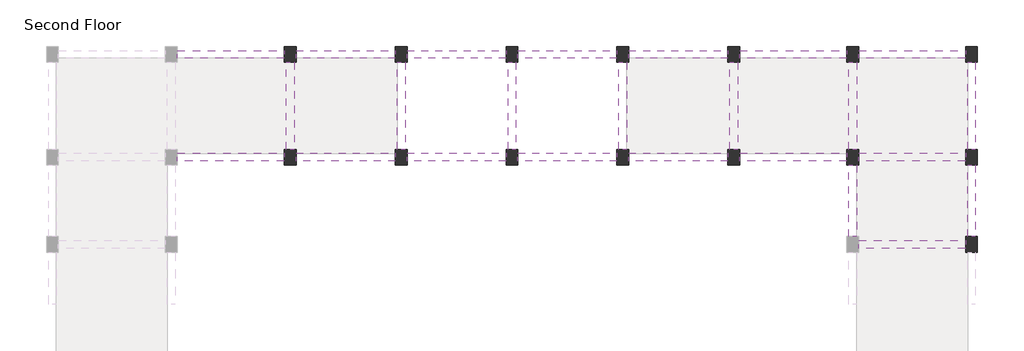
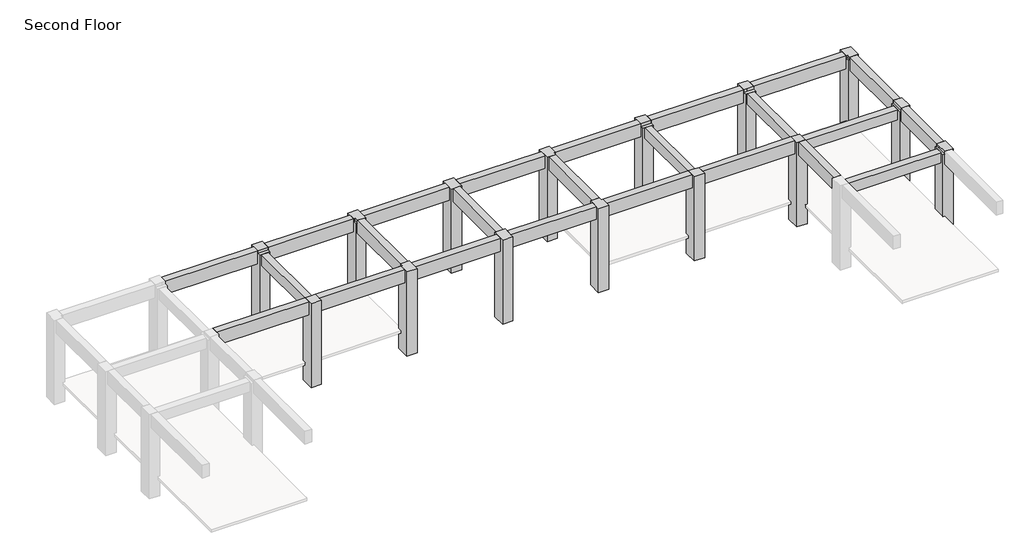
# One storey, part 2 of 2: 24 beams, 15 columns.
"""IFC4 building model written with IfcOpenShell, lengths in millimetres."""

from ifc_helpers import new_model, si_unit, frame, origin, place, context, project, spatial, polyline, outline, extrude, faceted_brep, element, save

model = new_model("IFC4")

# Units and contexts
model_context = context("Model", 3, world=origin())
ifc_project = project(units=[si_unit("LENGTHUNIT", "METRE", prefix="MILLI")], contexts=[model_context])

# Site, building, storey
site = spatial("IfcSite", under=ifc_project)
building = spatial("IfcBuilding", under=site)
storey = spatial("IfcBuildingStorey", under=building, Name="Second Floor", Elevation=4267.2)

# Beams
placement = place(None, origin())
element("IfcBeam", 1, ObjectType="Concrete-Rectangular Beam : 12 x 24", at=placement, inside=storey, context=model_context, shape_type="SweptSolid", body=[
    extrude(outline(polyline([(-11678.9781752, 17712.9470864), (-11983.7781752, 17712.9470864), (-11983.7781752, 21065.7470864), (-11678.9781752, 21065.7470864), (-11678.9781752, 17712.9470864)])), frame((0.0, 0.0, 6705.6), z_axis=(0.0, 0.0, 1.0), x_axis=(1.0, 0.0, 0.0)), (0.0, 0.0, 1.0), 482.6),
])
element("IfcBeam", 2, ObjectType="Concrete-Rectangular Beam : 12 x 24", at=placement, inside=storey, context=model_context, shape_type="SweptSolid", body=[
    extrude(outline(polyline([(-7411.7781752, 21065.7470864), (-7106.9781752, 21065.7470864), (-7106.9781752, 17712.9470864), (-7411.7781752, 17712.9470864), (-7411.7781752, 21065.7470864)])), frame((0.0, 0.0, 6705.6), z_axis=(0.0, 0.0, 1.0), x_axis=(1.0, 0.0, 0.0)), (0.0, 0.0, 1.0), 482.6),
])
element("IfcBeam", 3, ObjectType="Concrete-Rectangular Beam : 12 x 24", at=placement, inside=storey, context=model_context, shape_type="SweptSolid", body=[
    extrude(outline(polyline([(-7030.7781752, 17255.7470864), (-7030.7781752, 17560.5470864), (-2915.9781752, 17560.5470864), (-2915.9781752, 17255.7470864), (-7030.7781752, 17255.7470864)])), frame((0.0, 0.0, 6705.6), z_axis=(0.0, 0.0, 1.0), x_axis=(1.0, 0.0, 0.0)), (0.0, 0.0, 1.0), 482.6),
])
element("IfcBeam", 4, ObjectType="Concrete-Rectangular Beam : 12 x 24", at=placement, inside=storey, context=model_context, shape_type="SweptSolid", body=[
    extrude(outline(polyline([(-7030.7781752, 13902.9470864), (-7030.7781752, 14207.7470864), (-2915.9781752, 14207.7470864), (-2915.9781752, 13902.9470864), (-7030.7781752, 13902.9470864)])), frame((0.0, 0.0, 6705.6), z_axis=(0.0, 0.0, 1.0), x_axis=(1.0, 0.0, 0.0)), (0.0, 0.0, 1.0), 482.6),
])
element("IfcBeam", 5, ObjectType="Concrete-Rectangular Beam : 12 x 24", at=placement, inside=storey, context=model_context, shape_type="SweptSolid", body=[
    extrude(outline(polyline([(-20518.1781752, 21065.7470864), (-20213.3781752, 21065.7470864), (-20213.3781752, 17712.9470864), (-20518.1781752, 17712.9470864), (-20518.1781752, 21065.7470864)])), frame((0.0, 0.0, 6705.6), z_axis=(0.0, 0.0, 1.0), x_axis=(1.0, 0.0, 0.0)), (0.0, 0.0, 1.0), 609.6),
])
element("IfcBeam", 6, ObjectType="Concrete-Rectangular Beam : 12 x 24", at=placement, inside=storey, context=model_context, shape_type="SweptSolid", body=[
    extrude(outline(polyline([(-20137.1781752, 21218.1470864), (-20137.1781752, 21522.9470864), (-16327.1781752, 21522.9470864), (-16327.1781752, 21218.1470864), (-20137.1781752, 21218.1470864)])), frame((0.0, 0.0, 6705.6), z_axis=(0.0, 0.0, 1.0), x_axis=(1.0, 0.0, 0.0)), (0.0, 0.0, 1.0), 609.6),
])
element("IfcBeam", 7, ObjectType="Concrete-Rectangular Beam : 12 x 24", at=placement, inside=storey, context=model_context, shape_type="SweptSolid", body=[
    extrude(outline(polyline([(-15869.9781752, 21218.1470864), (-15869.9781752, 21522.9470864), (-12059.9781752, 21522.9470864), (-12059.9781752, 21218.1470864), (-15869.9781752, 21218.1470864)])), frame((0.0, 0.0, 6705.6), z_axis=(0.0, 0.0, 1.0), x_axis=(1.0, 0.0, 0.0)), (0.0, 0.0, 1.0), 609.6),
])
element("IfcBeam", 8, ObjectType="Concrete-Rectangular Beam : 12 x 24", at=placement, inside=storey, context=model_context, shape_type="SweptSolid", body=[
    extrude(outline(polyline([(-11602.7781752, 21218.1470864), (-11602.7781752, 21522.9470864), (-7487.9781752, 21522.9470864), (-7487.9781752, 21218.1470864), (-11602.7781752, 21218.1470864)])), frame((0.0, 0.0, 6705.6), z_axis=(0.0, 0.0, 1.0), x_axis=(1.0, 0.0, 0.0)), (0.0, 0.0, 1.0), 609.6),
])
element("IfcBeam", 9, ObjectType="Concrete-Rectangular Beam : 12 x 24", at=placement, inside=storey, context=model_context, shape_type="SweptSolid", body=[
    extrude(outline(polyline([(-7030.7781752, 21218.1470864), (-7030.7781752, 21522.9470864), (-2915.9781752, 21522.9470864), (-2915.9781752, 21218.1470864), (-7030.7781752, 21218.1470864)])), frame((0.0, 0.0, 6705.6), z_axis=(0.0, 0.0, 1.0), x_axis=(1.0, 0.0, 0.0)), (0.0, 0.0, 1.0), 609.6),
])
element("IfcBeam", 10, ObjectType="Concrete-Rectangular Beam : 12 x 24", at=placement, inside=storey, context=model_context, shape_type="SweptSolid", body=[
    extrude(outline(polyline([(-16250.9781752, 21065.7470864), (-15946.1781752, 21065.7470864), (-15946.1781752, 17712.9470864), (-16250.9781752, 17712.9470864), (-16250.9781752, 21065.7470864)])), frame((0.0, 0.0, 6705.6), z_axis=(0.0, 0.0, 1.0), x_axis=(1.0, 0.0, 0.0)), (0.0, 0.0, 1.0), 609.6),
])
element("IfcBeam", 11, ObjectType="Concrete-Rectangular Beam : 12 x 24", at=placement, inside=storey, context=model_context, shape_type="SweptSolid", body=[
    extrude(outline(polyline([(-2839.7781752, 21065.7470864), (-2534.9781752, 21065.7470864), (-2534.9781752, 17712.9470864), (-2839.7781752, 17712.9470864), (-2839.7781752, 21065.7470864)])), frame((0.0, 0.0, 6705.6), z_axis=(0.0, 0.0, 1.0), x_axis=(1.0, 0.0, 0.0)), (0.0, 0.0, 1.0), 609.6),
])
element("IfcBeam", 12, ObjectType="Concrete-Rectangular Beam : 12 x 24", at=placement, inside=storey, context=model_context, shape_type="SweptSolid", body=[
    extrude(outline(polyline([(-2839.7781752, 17103.3470864), (-2534.9781752, 17103.3470864), (-2534.9781752, 14360.1470864), (-2839.7781752, 14360.1470864), (-2839.7781752, 17103.3470864)])), frame((0.0, 0.0, 6705.6), z_axis=(0.0, 0.0, 1.0), x_axis=(1.0, 0.0, 0.0)), (0.0, 0.0, 1.0), 609.6),
])
element("IfcBeam", 13, ObjectType="Concrete-Rectangular Beam : 12 x 24", at=placement, inside=storey, context=model_context, shape_type="Brep", body=[
    faceted_brep([(-7106.9781752, 17103.3470864, 7315.2), (-7411.7781752, 17103.3470864, 7315.2), (-7411.7781752, 14360.1470864, 7315.2), (-7106.9781752, 14360.1470864, 7315.2), (-7411.7781752, 17103.3470864, 6705.6), (-7411.7781752, 14360.1470864, 6705.6), (-7106.9781752, 17103.3470864, 6705.6), (-7106.9781752, 14360.1470864, 6705.6), (-7106.9781752, 14360.1470864, 7188.2), (-7106.9781752, 17103.3470864, 7188.2)], [[[0, 1, 2, 3]], [[1, 4, 5, 2]], [[4, 6, 7, 5]], [[0, 3, 8, 7, 6, 9]], [[1, 0, 9, 6, 4]], [[3, 2, 5, 7, 8]]]),
])
element("IfcBeam", 14, ObjectType="Concrete-Rectangular Beam : 12 x 24", at=placement, inside=storey, context=model_context, shape_type="Brep", body=[
    faceted_brep([(-11602.7781752, 17560.5470864, 7315.2), (-11602.7781752, 17255.7470864, 7315.2), (-7487.9781752, 17255.7470864, 7315.2), (-7487.9781752, 17560.5470864, 7315.2), (-11602.7781752, 17255.7470864, 6705.6), (-7487.9781752, 17255.7470864, 6705.6), (-11602.7781752, 17560.5470864, 6705.6), (-7487.9781752, 17560.5470864, 6705.6), (-7487.9781752, 17560.5470864, 7188.2), (-11602.7781752, 17560.5470864, 7188.2)], [[[0, 1, 2, 3]], [[1, 4, 5, 2]], [[4, 6, 7, 5]], [[0, 3, 8, 7, 6, 9]], [[1, 0, 9, 6, 4]], [[3, 2, 5, 7, 8]]]),
])
element("IfcBeam", 15, ObjectType="Concrete-Rectangular Beam : 12 x 24", at=placement, inside=storey, context=model_context, shape_type="SweptSolid", body=[
    extrude(outline(polyline([(-20137.1781752, 17255.7470864), (-20137.1781752, 17560.5470864), (-16327.1781752, 17560.5470864), (-16327.1781752, 17255.7470864), (-20137.1781752, 17255.7470864)])), frame((0.0, 0.0, 6705.6), z_axis=(0.0, 0.0, 1.0), x_axis=(1.0, 0.0, 0.0)), (0.0, 0.0, 1.0), 609.6),
])
element("IfcBeam", 16, ObjectType="Concrete-Rectangular Beam : 12 x 24", at=placement, inside=storey, context=model_context, shape_type="Brep", body=[
    faceted_brep([(-12059.9781752, 17560.5470864, 7315.2), (-15869.9781752, 17560.5470864, 7315.2), (-15869.9781752, 17255.7470864, 7315.2), (-12059.9781752, 17255.7470864, 7315.2), (-15869.9781752, 17255.7470864, 6705.6), (-12059.9781752, 17255.7470864, 6705.6), (-15869.9781752, 17560.5470864, 6705.6), (-12059.9781752, 17560.5470864, 6705.6), (-12059.9781752, 17560.5470864, 7188.2), (-15869.9781752, 17560.5470864, 7188.2)], [[[0, 1, 2, 3]], [[3, 2, 4, 5]], [[5, 4, 6, 7]], [[1, 0, 8, 7, 6, 9]], [[2, 1, 9, 6, 4]], [[0, 3, 5, 7, 8]]]),
])
element("IfcBeam", 17, ObjectType="Concrete-Rectangular Beam : 12 x 24", at=placement, inside=storey, context=model_context, shape_type="SweptSolid", body=[
    extrude(outline(polyline([(-28747.7781752, 17712.9470864), (-29052.5781752, 17712.9470864), (-29052.5781752, 21065.7470864), (-28747.7781752, 21065.7470864), (-28747.7781752, 17712.9470864)])), frame((0.0, 0.0, 6705.6), z_axis=(0.0, 0.0, 1.0), x_axis=(1.0, 0.0, 0.0)), (0.0, 0.0, 1.0), 482.6),
])
element("IfcBeam", 18, ObjectType="Concrete-Rectangular Beam : 12 x 24", at=placement, inside=storey, context=model_context, shape_type="SweptSolid", body=[
    extrude(outline(polyline([(-24404.3781752, 21218.1470864), (-24404.3781752, 21522.9470864), (-20594.3781752, 21522.9470864), (-20594.3781752, 21218.1470864), (-24404.3781752, 21218.1470864)])), frame((0.0, 0.0, 6705.6), z_axis=(0.0, 0.0, 1.0), x_axis=(1.0, 0.0, 0.0)), (0.0, 0.0, 1.0), 609.6),
])
element("IfcBeam", 19, ObjectType="Concrete-Rectangular Beam : 12 x 24", at=placement, inside=storey, context=model_context, shape_type="SweptSolid", body=[
    extrude(outline(polyline([(-24861.5781752, 21522.9470864), (-24861.5781752, 21218.1470864), (-28671.5781752, 21218.1470864), (-28671.5781752, 21522.9470864), (-24861.5781752, 21522.9470864)])), frame((0.0, 0.0, 6705.6), z_axis=(0.0, 0.0, 1.0), x_axis=(1.0, 0.0, 0.0)), (0.0, 0.0, 1.0), 609.6),
])
element("IfcBeam", 20, ObjectType="Concrete-Rectangular Beam : 12 x 24", at=placement, inside=storey, context=model_context, shape_type="SweptSolid", body=[
    extrude(outline(polyline([(-29128.7781752, 21522.9470864), (-29128.7781752, 21218.1470864), (-33243.5781752, 21218.1470864), (-33243.5781752, 21522.9470864), (-29128.7781752, 21522.9470864)])), frame((0.0, 0.0, 6705.6), z_axis=(0.0, 0.0, 1.0), x_axis=(1.0, 0.0, 0.0)), (0.0, 0.0, 1.0), 609.6),
])
element("IfcBeam", 21, ObjectType="Concrete-Rectangular Beam : 12 x 24", at=placement, inside=storey, context=model_context, shape_type="SweptSolid", body=[
    extrude(outline(polyline([(-24785.3781752, 21065.7470864), (-24480.5781752, 21065.7470864), (-24480.5781752, 17712.9470864), (-24785.3781752, 17712.9470864), (-24785.3781752, 21065.7470864)])), frame((0.0, 0.0, 6705.6), z_axis=(0.0, 0.0, 1.0), x_axis=(1.0, 0.0, 0.0)), (0.0, 0.0, 1.0), 609.6),
])
element("IfcBeam", 22, ObjectType="Concrete-Rectangular Beam : 12 x 24", at=placement, inside=storey, context=model_context, shape_type="Brep", body=[
    faceted_brep([(-29128.7781752, 17255.7470864, 7315.2), (-29128.7781752, 17560.5470864, 7315.2), (-33243.5781752, 17560.5470864, 7315.2), (-33243.5781752, 17255.7470864, 7315.2), (-29128.7781752, 17255.7470864, 6705.6), (-33243.5781752, 17255.7470864, 6705.6), (-29128.7781752, 17560.5470864, 6705.6), (-33243.5781752, 17560.5470864, 6705.6), (-29128.7781752, 17560.5470864, 7188.2), (-33243.5781752, 17560.5470864, 7188.2)], [[[0, 1, 2, 3]], [[4, 0, 3, 5]], [[6, 4, 5, 7]], [[2, 1, 8, 6, 7, 9]], [[1, 0, 4, 6, 8]], [[3, 2, 9, 7, 5]]]),
])
element("IfcBeam", 23, ObjectType="Concrete-Rectangular Beam : 12 x 24", at=placement, inside=storey, context=model_context, shape_type="Brep", body=[
    faceted_brep([(-24861.5781752, 17255.7470864, 7315.2), (-24861.5781752, 17560.5470864, 7315.2), (-28671.5781752, 17560.5470864, 7315.2), (-28671.5781752, 17255.7470864, 7315.2), (-24861.5781752, 17255.7470864, 6705.6), (-28671.5781752, 17255.7470864, 6705.6), (-24861.5781752, 17560.5470864, 6705.6), (-28671.5781752, 17560.5470864, 6705.6), (-24861.5781752, 17560.5470864, 7188.2), (-28671.5781752, 17560.5470864, 7188.2)], [[[0, 1, 2, 3]], [[4, 0, 3, 5]], [[6, 4, 5, 7]], [[2, 1, 8, 6, 7, 9]], [[1, 0, 4, 6, 8]], [[3, 2, 9, 7, 5]]]),
])
element("IfcBeam", 24, ObjectType="Concrete-Rectangular Beam : 12 x 24", at=placement, inside=storey, context=model_context, shape_type="SweptSolid", body=[
    extrude(outline(polyline([(-20594.3781752, 17560.5470864), (-20594.3781752, 17255.7470864), (-24404.3781752, 17255.7470864), (-24404.3781752, 17560.5470864), (-20594.3781752, 17560.5470864)])), frame((0.0, 0.0, 6705.6), z_axis=(0.0, 0.0, 1.0), x_axis=(1.0, 0.0, 0.0)), (0.0, 0.0, 1.0), 609.6),
])

# Columns
element("IfcColumn", 25, ObjectType="Concrete-Rectangular-Column : 18 x 24", at=placement, inside=storey, context=model_context, shape_type="SweptSolid", body=[
    extrude(outline(polyline([(-20137.1781752, 21675.3470864), (-20137.1781752, 21065.7470864), (-20594.3781752, 21065.7470864), (-20594.3781752, 21675.3470864), (-20137.1781752, 21675.3470864)])), frame((0.0, 0.0, 3352.8), z_axis=(0.0, 0.0, 1.0), x_axis=(1.0, 0.0, 0.0)), (0.0, 0.0, 1.0), 3962.4),
])
element("IfcColumn", 26, ObjectType="Concrete-Rectangular-Column : 18 x 24", at=placement, inside=storey, context=model_context, shape_type="Brep", body=[
    faceted_brep([(-15869.9781752, 21675.3470864, 3352.8), (-15869.9781752, 21065.7470864, 3352.8), (-16327.1781752, 21065.7470864, 3352.8), (-16327.1781752, 21675.3470864, 3352.8), (-15869.9781752, 21675.3470864, 7315.2), (-15869.9781752, 21218.1470864, 7315.2), (-15869.9781752, 21218.1470864, 7188.2), (-15869.9781752, 21065.7470864, 7188.2), (-15869.9781752, 21065.7470864, 4267.2), (-15869.9781752, 21218.1470864, 4267.2), (-15869.9781752, 21218.1470864, 4140.2), (-15869.9781752, 21065.7470864, 4140.2), (-15946.1781752, 21065.7470864, 4140.2), (-15946.1781752, 21065.7470864, 4267.2), (-15946.1781752, 21065.7470864, 7188.2), (-15946.1781752, 21065.7470864, 7315.2), (-16327.1781752, 21065.7470864, 7315.2), (-16327.1781752, 21675.3470864, 7315.2), (-15946.1781752, 21218.1470864, 7315.2), (-15946.1781752, 21218.1470864, 7188.2), (-15946.1781752, 21218.1470864, 4140.2), (-15946.1781752, 21218.1470864, 4267.2)], [[[0, 1, 2, 3]], [[1, 0, 4, 5, 6, 7, 8, 9, 10, 11]], [[2, 1, 11, 12, 13, 8, 7, 14, 15, 16]], [[3, 2, 16, 17]], [[0, 3, 17, 4]], [[17, 16, 15, 18, 5, 4]], [[6, 19, 14, 7]], [[19, 18, 15, 14]], [[18, 19, 6, 5]], [[10, 20, 12, 11]], [[13, 21, 9, 8]], [[20, 21, 13, 12]], [[21, 20, 10, 9]]]),
])
element("IfcColumn", 27, ObjectType="Concrete-Rectangular-Column : 18 x 24", at=placement, inside=storey, context=model_context, shape_type="Brep", body=[
    faceted_brep([(-11602.7781752, 21675.3470864, 3352.8), (-11602.7781752, 21065.7470864, 3352.8), (-12059.9781752, 21065.7470864, 3352.8), (-12059.9781752, 21675.3470864, 3352.8), (-11602.7781752, 21675.3470864, 7315.2), (-11602.7781752, 21218.1470864, 7315.2), (-11602.7781752, 21218.1470864, 7188.2), (-11602.7781752, 21065.7470864, 7188.2), (-11602.7781752, 21065.7470864, 4267.2), (-11602.7781752, 21218.1470864, 4267.2), (-11602.7781752, 21218.1470864, 4140.2), (-11602.7781752, 21065.7470864, 4140.2), (-12059.9781752, 21065.7470864, 7188.2), (-12059.9781752, 21065.7470864, 4267.2), (-12059.9781752, 21065.7470864, 4140.2), (-12059.9781752, 21218.1470864, 4140.2), (-12059.9781752, 21218.1470864, 4267.2), (-12059.9781752, 21218.1470864, 7188.2), (-12059.9781752, 21218.1470864, 7315.2), (-12059.9781752, 21675.3470864, 7315.2), (-11983.7781752, 21065.7470864, 4140.2), (-11678.9781752, 21065.7470864, 4140.2)], [[[0, 1, 2, 3]], [[1, 0, 4, 5, 6, 7, 8, 9, 10, 11]], [[7, 12, 13, 8]], [[3, 2, 14, 15, 16, 13, 12, 17, 18, 19]], [[0, 3, 19, 4]], [[4, 19, 18, 5]], [[6, 17, 12, 7]], [[17, 6, 5, 18]], [[10, 15, 14, 20, 21, 11]], [[16, 9, 8, 13]], [[15, 10, 9, 16]], [[2, 1, 11, 21, 20, 14]]]),
])
element("IfcColumn", 28, ObjectType="Concrete-Rectangular-Column : 18 x 24", at=placement, inside=storey, context=model_context, shape_type="Brep", body=[
    faceted_brep([(-7030.7781752, 21675.3470864, 3352.8), (-7030.7781752, 21065.7470864, 3352.8), (-7487.9781752, 21065.7470864, 3352.8), (-7487.9781752, 21675.3470864, 3352.8), (-7030.7781752, 21675.3470864, 7315.2), (-7030.7781752, 21218.1470864, 7315.2), (-7030.7781752, 21218.1470864, 7188.2), (-7030.7781752, 21065.7470864, 7188.2), (-7030.7781752, 21065.7470864, 4267.2), (-7030.7781752, 21218.1470864, 4267.2), (-7030.7781752, 21218.1470864, 4140.2), (-7030.7781752, 21065.7470864, 4140.2), (-7487.9781752, 21065.7470864, 7188.2), (-7487.9781752, 21065.7470864, 4267.2), (-7487.9781752, 21065.7470864, 4140.2), (-7487.9781752, 21218.1470864, 4140.2), (-7487.9781752, 21218.1470864, 4267.2), (-7487.9781752, 21218.1470864, 7188.2), (-7487.9781752, 21218.1470864, 7315.2), (-7487.9781752, 21675.3470864, 7315.2), (-7337.9512179, 21218.1470864, 7315.2), (-7337.9512179, 21218.1470864, 7188.2), (-7337.9512179, 21218.1470864, 4140.2), (-7411.7781752, 21065.7470864, 4140.2), (-7106.9781752, 21065.7470864, 4140.2), (-7337.9512179, 21218.1470864, 4267.2)], [[[0, 1, 2, 3]], [[1, 0, 4, 5, 6, 7, 8, 9, 10, 11]], [[7, 12, 13, 8]], [[3, 2, 14, 15, 16, 13, 12, 17, 18, 19]], [[0, 3, 19, 4]], [[4, 19, 18, 20, 5]], [[6, 21, 17, 12, 7]], [[21, 20, 18, 17]], [[20, 21, 6, 5]], [[10, 22, 15, 14, 23, 24, 11]], [[16, 25, 9, 8, 13]], [[22, 25, 16, 15]], [[25, 22, 10, 9]], [[2, 1, 11, 24, 23, 14]]]),
])
element("IfcColumn", 29, ObjectType="Concrete-Rectangular-Column : 18 x 24", at=placement, inside=storey, context=model_context, shape_type="Brep", body=[
    faceted_brep([(-2458.7781752, 21675.3470864, 3352.8), (-2458.7781752, 21065.7470864, 3352.8), (-2915.9781752, 21065.7470864, 3352.8), (-2915.9781752, 21218.1470864, 3352.8), (-2611.1781752, 21218.1470864, 3352.8), (-2611.1781752, 21522.9470864, 3352.8), (-2915.9781752, 21522.9470864, 3352.8), (-2915.9781752, 21675.3470864, 3352.8), (-2458.7781752, 21675.3470864, 7315.2), (-2458.7781752, 21065.7470864, 7315.2), (-2839.7781752, 21065.7470864, 7315.2), (-2839.7781752, 21065.7470864, 7188.2), (-2915.9781752, 21065.7470864, 7188.2), (-2915.9781752, 21065.7470864, 4267.2), (-2839.7781752, 21065.7470864, 4267.2), (-2839.7781752, 21065.7470864, 4140.2), (-2915.9781752, 21065.7470864, 4140.2), (-2915.9781752, 21675.3470864, 7315.2), (-2915.9781752, 21522.9470864, 3657.6), (-2915.9781752, 21218.1470864, 3657.6), (-2915.9781752, 21218.1470864, 4140.2), (-2915.9781752, 21218.1470864, 4267.2), (-2915.9781752, 21218.1470864, 7188.2), (-2915.9781752, 21218.1470864, 7315.2), (-2839.7781752, 21218.1470864, 7315.2), (-2839.7781752, 21218.1470864, 7188.2), (-2839.7781752, 21218.1470864, 4140.2), (-2839.7781752, 21218.1470864, 4267.2), (-2611.1781752, 21218.1470864, 3657.6), (-2611.1781752, 21522.9470864, 3657.6)], [[[0, 1, 2, 3, 4, 5, 6, 7]], [[1, 0, 8, 9]], [[2, 1, 9, 10, 11, 12, 13, 14, 15, 16]], [[17, 7, 6, 18, 19, 3, 2, 16, 20, 21, 13, 12, 22, 23]], [[0, 7, 17, 8]], [[9, 8, 17, 23, 24, 10]], [[11, 25, 22, 12]], [[25, 24, 23, 22]], [[24, 25, 11, 10]], [[15, 26, 20, 16]], [[21, 27, 14, 13]], [[26, 27, 21, 20]], [[27, 26, 15, 14]], [[19, 28, 4, 3]], [[5, 29, 18, 6]], [[28, 29, 5, 4]], [[29, 28, 19, 18]]]),
])
element("IfcColumn", 30, ObjectType="Concrete-Rectangular-Column : 18 x 24", at=placement, inside=storey, context=model_context, shape_type="SweptSolid", body=[
    extrude(outline(polyline([(-20137.1781752, 17712.9470864), (-20137.1781752, 17103.3470864), (-20594.3781752, 17103.3470864), (-20594.3781752, 17712.9470864), (-20137.1781752, 17712.9470864)])), frame((0.0, 0.0, 3352.8), z_axis=(0.0, 0.0, 1.0), x_axis=(1.0, 0.0, 0.0)), (0.0, 0.0, 1.0), 3962.4),
])
element("IfcColumn", 31, ObjectType="Concrete-Rectangular-Column : 18 x 24", at=placement, inside=storey, context=model_context, shape_type="Brep", body=[
    faceted_brep([(-15869.9781752, 17712.9470864, 3352.8), (-15869.9781752, 17103.3470864, 3352.8), (-16327.1781752, 17103.3470864, 3352.8), (-16327.1781752, 17712.9470864, 3352.8), (-15869.9781752, 17712.9470864, 4140.2), (-15869.9781752, 17560.5470864, 4140.2), (-15869.9781752, 17560.5470864, 4267.2), (-15869.9781752, 17712.9470864, 4267.2), (-15869.9781752, 17712.9470864, 7188.2), (-15869.9781752, 17560.5470864, 7188.2), (-15869.9781752, 17560.5470864, 7315.2), (-15869.9781752, 17103.3470864, 7315.2), (-16327.1781752, 17103.3470864, 7315.2), (-16327.1781752, 17712.9470864, 7315.2), (-15946.1781752, 17712.9470864, 7315.2), (-15946.1781752, 17712.9470864, 7188.2), (-15946.1781752, 17712.9470864, 4267.2), (-15946.1781752, 17712.9470864, 4140.2), (-15946.1781752, 17560.5470864, 7315.2), (-15946.1781752, 17560.5470864, 7188.2), (-15946.1781752, 17560.5470864, 4140.2), (-15946.1781752, 17560.5470864, 4267.2)], [[[0, 1, 2, 3]], [[1, 0, 4, 5, 6, 7, 8, 9, 10, 11]], [[2, 1, 11, 12]], [[3, 2, 12, 13]], [[0, 3, 13, 14, 15, 8, 7, 16, 17, 4]], [[12, 11, 10, 18, 14, 13]], [[19, 9, 8, 15]], [[18, 19, 15, 14]], [[19, 18, 10, 9]], [[20, 5, 4, 17]], [[21, 16, 7, 6]], [[21, 20, 17, 16]], [[20, 21, 6, 5]]]),
])
element("IfcColumn", 32, ObjectType="Concrete-Rectangular-Column : 18 x 24", at=placement, inside=storey, context=model_context, shape_type="Brep", body=[
    faceted_brep([(-11602.7781752, 17712.9470864, 3352.8), (-11602.7781752, 17103.3470864, 3352.8), (-12059.9781752, 17103.3470864, 3352.8), (-12059.9781752, 17712.9470864, 3352.8), (-11602.7781752, 17712.9470864, 4140.2), (-11602.7781752, 17560.5470864, 4140.2), (-11602.7781752, 17560.5470864, 4267.2), (-11602.7781752, 17712.9470864, 4267.2), (-11602.7781752, 17712.9470864, 7188.2), (-11602.7781752, 17560.5470864, 7188.2), (-11602.7781752, 17560.5470864, 7315.2), (-11602.7781752, 17103.3470864, 7315.2), (-12059.9781752, 17103.3470864, 7315.2), (-12059.9781752, 17560.5470864, 7315.2), (-12059.9781752, 17560.5470864, 7188.2), (-12059.9781752, 17712.9470864, 7188.2), (-12059.9781752, 17712.9470864, 4267.2), (-12059.9781752, 17560.5470864, 4267.2), (-12059.9781752, 17560.5470864, 4140.2), (-12059.9781752, 17712.9470864, 4140.2), (-11869.525863, 17560.5470864, 7315.2), (-11869.525863, 17560.5470864, 7188.2), (-11869.525863, 17560.5470864, 4140.2), (-11678.9781752, 17712.9470864, 4140.2), (-11983.7781752, 17712.9470864, 4140.2), (-11869.525863, 17560.5470864, 4267.2)], [[[0, 1, 2, 3]], [[1, 0, 4, 5, 6, 7, 8, 9, 10, 11]], [[2, 1, 11, 12]], [[3, 2, 12, 13, 14, 15, 16, 17, 18, 19]], [[15, 8, 7, 16]], [[12, 11, 10, 20, 13]], [[14, 21, 9, 8, 15]], [[21, 20, 10, 9]], [[20, 21, 14, 13]], [[18, 22, 5, 4, 23, 24, 19]], [[6, 25, 17, 16, 7]], [[22, 25, 6, 5]], [[25, 22, 18, 17]], [[0, 3, 19, 24, 23, 4]]]),
])
element("IfcColumn", 33, ObjectType="Concrete-Rectangular-Column : 18 x 24", at=placement, inside=storey, context=model_context, shape_type="Brep", body=[
    faceted_brep([(-7030.7781752, 17712.9470864, 3352.8), (-7030.7781752, 17103.3470864, 3352.8), (-7487.9781752, 17103.3470864, 3352.8), (-7487.9781752, 17712.9470864, 3352.8), (-7030.7781752, 17712.9470864, 7188.2), (-7030.7781752, 17103.3470864, 7188.2), (-7030.7781752, 17103.3470864, 4267.2), (-7030.7781752, 17712.9470864, 4267.2), (-7030.7781752, 17103.3470864, 4140.2), (-7106.9781752, 17103.3470864, 4140.2), (-7106.9781752, 17103.3470864, 4267.2), (-7106.9781752, 17103.3470864, 7188.2), (-7106.9781752, 17103.3470864, 7315.2), (-7487.9781752, 17103.3470864, 7315.2), (-7487.9781752, 17560.5470864, 7315.2), (-7487.9781752, 17560.5470864, 7188.2), (-7487.9781752, 17712.9470864, 7188.2), (-7487.9781752, 17712.9470864, 4267.2), (-7487.9781752, 17560.5470864, 4267.2), (-7487.9781752, 17560.5470864, 4140.2), (-7487.9781752, 17712.9470864, 4140.2), (-7106.9781752, 17560.5470864, 7315.2), (-7106.9781752, 17560.5470864, 7188.2), (-7106.9781752, 17560.5470864, 4140.2), (-7030.7781752, 17255.7470864, 4140.2), (-7030.7781752, 17560.5470864, 4140.2), (-7030.7781752, 17712.9470864, 4140.2), (-7106.9781752, 17712.9470864, 4140.2), (-7411.7781752, 17712.9470864, 4140.2), (-7106.9781752, 17560.5470864, 4267.2)], [[[0, 1, 2, 3]], [[4, 5, 6, 7]], [[2, 1, 8, 9, 10, 6, 5, 11, 12, 13]], [[3, 2, 13, 14, 15, 16, 17, 18, 19, 20]], [[16, 4, 7, 17]], [[14, 13, 12, 21]], [[15, 22, 11, 5, 4, 16]], [[22, 21, 12, 11]], [[21, 22, 15, 14]], [[19, 23, 9, 8, 24, 25, 26, 27, 28, 20]], [[10, 29, 18, 17, 7, 6]], [[23, 29, 10, 9]], [[29, 23, 19, 18]], [[1, 0, 26, 25, 24, 8]], [[0, 3, 20, 28, 27, 26]]]),
])
element("IfcColumn", 34, ObjectType="Concrete-Rectangular-Column : 18 x 24", at=placement, inside=storey, context=model_context, shape_type="Brep", body=[
    faceted_brep([(-2458.7781752, 17712.9470864, 3352.8), (-2458.7781752, 17103.3470864, 3352.8), (-2915.9781752, 17103.3470864, 3352.8), (-2915.9781752, 17712.9470864, 3352.8), (-2839.7781752, 17712.9470864, 3352.8), (-2839.7781752, 17560.5470864, 3352.8), (-2534.9781752, 17560.5470864, 3352.8), (-2534.9781752, 17712.9470864, 3352.8), (-2458.7781752, 17712.9470864, 7315.2), (-2458.7781752, 17103.3470864, 7315.2), (-2839.7781752, 17103.3470864, 7315.2), (-2839.7781752, 17103.3470864, 7188.2), (-2915.9781752, 17103.3470864, 7188.2), (-2915.9781752, 17103.3470864, 4267.2), (-2839.7781752, 17103.3470864, 4267.2), (-2839.7781752, 17103.3470864, 4140.2), (-2915.9781752, 17103.3470864, 4140.2), (-2915.9781752, 17712.9470864, 7188.2), (-2915.9781752, 17712.9470864, 4267.2), (-2534.9781752, 17712.9470864, 3657.6), (-2839.7781752, 17712.9470864, 3657.6), (-2915.9781752, 17712.9470864, 4140.2), (-2839.7781752, 17712.9470864, 4140.2), (-2839.7781752, 17712.9470864, 4267.2), (-2839.7781752, 17712.9470864, 7188.2), (-2839.7781752, 17712.9470864, 7315.2), (-2839.7781752, 17107.3073578, 7315.2), (-2839.7781752, 17107.3073578, 7188.2), (-2839.7781752, 17107.3073578, 4140.2), (-2915.9781752, 17560.5470864, 4140.2), (-2915.9781752, 17255.7470864, 4140.2), (-2839.7781752, 17107.3073578, 4267.2), (-2534.9781752, 17560.5470864, 3657.6), (-2839.7781752, 17560.5470864, 3657.6)], [[[0, 1, 2, 3, 4, 5, 6, 7]], [[1, 0, 8, 9]], [[2, 1, 9, 10, 11, 12, 13, 14, 15, 16]], [[12, 17, 18, 13]], [[8, 0, 7, 19, 20, 4, 3, 21, 22, 23, 18, 17, 24, 25]], [[9, 8, 25, 26, 10]], [[11, 27, 24, 17, 12]], [[27, 26, 25, 24]], [[26, 27, 11, 10]], [[15, 28, 22, 21, 29, 30, 16]], [[23, 31, 14, 13, 18]], [[28, 31, 23, 22]], [[31, 28, 15, 14]], [[3, 2, 16, 30, 29, 21]], [[6, 32, 19, 7]], [[20, 33, 5, 4]], [[32, 33, 20, 19]], [[33, 32, 6, 5]]]),
])
element("IfcColumn", 35, ObjectType="Concrete-Rectangular-Column : 18 x 24", at=placement, inside=storey, context=model_context, shape_type="Brep", body=[
    faceted_brep([(-2458.7781752, 14360.1470864, 3352.8), (-2458.7781752, 13750.5470864, 3352.8), (-2915.9781752, 13750.5470864, 3352.8), (-2915.9781752, 14360.1470864, 3352.8), (-2839.7781752, 14360.1470864, 3352.8), (-2839.7781752, 14207.7470864, 3352.8), (-2534.9781752, 14207.7470864, 3352.8), (-2534.9781752, 14360.1470864, 3352.8), (-2458.7781752, 14360.1470864, 7315.2), (-2458.7781752, 13750.5470864, 7315.2), (-2839.7781752, 13750.5470864, 7315.2), (-2839.7781752, 13750.5470864, 7188.2), (-2915.9781752, 13750.5470864, 7188.2), (-2915.9781752, 13750.5470864, 4267.2), (-2839.7781752, 13750.5470864, 4267.2), (-2839.7781752, 13750.5470864, 4140.2), (-2915.9781752, 13750.5470864, 4140.2), (-2915.9781752, 14360.1470864, 7188.2), (-2915.9781752, 14360.1470864, 4267.2), (-2534.9781752, 14360.1470864, 3657.6), (-2839.7781752, 14360.1470864, 3657.6), (-2915.9781752, 14360.1470864, 4140.2), (-2839.7781752, 14360.1470864, 4140.2), (-2839.7781752, 14360.1470864, 4267.2), (-2839.7781752, 14360.1470864, 7188.2), (-2839.7781752, 14360.1470864, 7315.2), (-2839.7781752, 14203.6458879, 7315.2), (-2839.7781752, 14203.6458879, 7188.2), (-2839.7781752, 14203.6458879, 4140.2), (-2915.9781752, 14207.7470864, 4140.2), (-2915.9781752, 13902.9470864, 4140.2), (-2839.7781752, 14203.6458879, 4267.2), (-2534.9781752, 14207.7470864, 3657.6), (-2839.7781752, 14207.7470864, 3657.6)], [[[0, 1, 2, 3, 4, 5, 6, 7]], [[1, 0, 8, 9]], [[2, 1, 9, 10, 11, 12, 13, 14, 15, 16]], [[12, 17, 18, 13]], [[8, 0, 7, 19, 20, 4, 3, 21, 22, 23, 18, 17, 24, 25]], [[9, 8, 25, 26, 10]], [[11, 27, 24, 17, 12]], [[27, 26, 25, 24]], [[26, 27, 11, 10]], [[15, 28, 22, 21, 29, 30, 16]], [[23, 31, 14, 13, 18]], [[28, 31, 23, 22]], [[31, 28, 15, 14]], [[3, 2, 16, 30, 29, 21]], [[6, 32, 19, 7]], [[20, 33, 5, 4]], [[32, 33, 20, 19]], [[33, 32, 6, 5]]]),
])
element("IfcColumn", 36, ObjectType="Concrete-Rectangular-Column : 18 x 24", at=placement, inside=storey, context=model_context, shape_type="Brep", body=[
    faceted_brep([(-24861.5781752, 21065.7470864, 3352.8), (-24861.5781752, 21675.3470864, 3352.8), (-24404.3781752, 21675.3470864, 3352.8), (-24404.3781752, 21065.7470864, 3352.8), (-24861.5781752, 21065.7470864, 4140.2), (-24861.5781752, 21218.1470864, 4140.2), (-24861.5781752, 21218.1470864, 4267.2), (-24861.5781752, 21065.7470864, 4267.2), (-24861.5781752, 21065.7470864, 7188.2), (-24861.5781752, 21218.1470864, 7188.2), (-24861.5781752, 21218.1470864, 7315.2), (-24861.5781752, 21675.3470864, 7315.2), (-24404.3781752, 21065.7470864, 7315.2), (-24785.3781752, 21065.7470864, 7315.2), (-24785.3781752, 21065.7470864, 7188.2), (-24785.3781752, 21065.7470864, 4267.2), (-24785.3781752, 21065.7470864, 4140.2), (-24404.3781752, 21675.3470864, 7315.2), (-24785.3781752, 21218.1470864, 7315.2), (-24785.3781752, 21218.1470864, 7188.2), (-24785.3781752, 21218.1470864, 4140.2), (-24785.3781752, 21218.1470864, 4267.2)], [[[0, 1, 2, 3]], [[1, 0, 4, 5, 6, 7, 8, 9, 10, 11]], [[0, 3, 12, 13, 14, 8, 7, 15, 16, 4]], [[3, 2, 17, 12]], [[2, 1, 11, 17]], [[12, 17, 11, 10, 18, 13]], [[19, 9, 8, 14]], [[19, 14, 13, 18]], [[9, 19, 18, 10]], [[16, 20, 5, 4]], [[6, 21, 15, 7]], [[21, 20, 16, 15]], [[20, 21, 6, 5]]]),
])
element("IfcColumn", 37, ObjectType="Concrete-Rectangular-Column : 18 x 24", at=placement, inside=storey, context=model_context, shape_type="Brep", body=[
    faceted_brep([(-29128.7781752, 21065.7470864, 3352.8), (-29128.7781752, 21675.3470864, 3352.8), (-28671.5781752, 21675.3470864, 3352.8), (-28671.5781752, 21065.7470864, 3352.8), (-29128.7781752, 21065.7470864, 4140.2), (-29128.7781752, 21218.1470864, 4140.2), (-29128.7781752, 21218.1470864, 4267.2), (-29128.7781752, 21065.7470864, 4267.2), (-29128.7781752, 21065.7470864, 7188.2), (-29128.7781752, 21218.1470864, 7188.2), (-29128.7781752, 21218.1470864, 7315.2), (-29128.7781752, 21675.3470864, 7315.2), (-28671.5781752, 21065.7470864, 7188.2), (-28671.5781752, 21065.7470864, 4267.2), (-28671.5781752, 21675.3470864, 7315.2), (-28671.5781752, 21218.1470864, 7315.2), (-28671.5781752, 21218.1470864, 7188.2), (-28671.5781752, 21218.1470864, 4267.2), (-28671.5781752, 21218.1470864, 4140.2), (-28671.5781752, 21065.7470864, 4140.2), (-29052.5781752, 21065.7470864, 4140.2), (-28747.7781752, 21065.7470864, 4140.2)], [[[0, 1, 2, 3]], [[1, 0, 4, 5, 6, 7, 8, 9, 10, 11]], [[12, 8, 7, 13]], [[3, 2, 14, 15, 16, 12, 13, 17, 18, 19]], [[2, 1, 11, 14]], [[14, 11, 10, 15]], [[9, 8, 12, 16]], [[10, 9, 16, 15]], [[18, 5, 4, 20, 21, 19]], [[6, 17, 13, 7]], [[5, 18, 17, 6]], [[0, 3, 19, 21, 20, 4]]]),
])
element("IfcColumn", 38, ObjectType="Concrete-Rectangular-Column : 18 x 24", at=placement, inside=storey, context=model_context, shape_type="Brep", body=[
    faceted_brep([(-24861.5781752, 17103.3470864, 3352.8), (-24861.5781752, 17712.9470864, 3352.8), (-24404.3781752, 17712.9470864, 3352.8), (-24404.3781752, 17103.3470864, 3352.8), (-24861.5781752, 17103.3470864, 7315.2), (-24861.5781752, 17560.5470864, 7315.2), (-24861.5781752, 17560.5470864, 7188.2), (-24861.5781752, 17712.9470864, 7188.2), (-24861.5781752, 17712.9470864, 4267.2), (-24861.5781752, 17560.5470864, 4267.2), (-24861.5781752, 17560.5470864, 4140.2), (-24861.5781752, 17712.9470864, 4140.2), (-24404.3781752, 17103.3470864, 7315.2), (-24404.3781752, 17712.9470864, 7315.2), (-24785.3781752, 17712.9470864, 4140.2), (-24785.3781752, 17712.9470864, 4267.2), (-24785.3781752, 17712.9470864, 7188.2), (-24785.3781752, 17712.9470864, 7315.2), (-24785.3781752, 17560.5470864, 7315.2), (-24785.3781752, 17560.5470864, 7188.2), (-24785.3781752, 17560.5470864, 4140.2), (-24785.3781752, 17560.5470864, 4267.2)], [[[0, 1, 2, 3]], [[1, 0, 4, 5, 6, 7, 8, 9, 10, 11]], [[0, 3, 12, 4]], [[3, 2, 13, 12]], [[2, 1, 11, 14, 15, 8, 7, 16, 17, 13]], [[4, 12, 13, 17, 18, 5]], [[6, 19, 16, 7]], [[16, 19, 18, 17]], [[19, 6, 5, 18]], [[20, 14, 11, 10]], [[21, 9, 8, 15]], [[20, 21, 15, 14]], [[21, 20, 10, 9]]]),
])
element("IfcColumn", 39, ObjectType="Concrete-Rectangular-Column : 18 x 24", at=placement, inside=storey, context=model_context, shape_type="Brep", body=[
    faceted_brep([(-29128.7781752, 17103.3470864, 3352.8), (-29128.7781752, 17712.9470864, 3352.8), (-28671.5781752, 17712.9470864, 3352.8), (-28671.5781752, 17103.3470864, 3352.8), (-29128.7781752, 17103.3470864, 7315.2), (-29128.7781752, 17560.5470864, 7315.2), (-29128.7781752, 17560.5470864, 7188.2), (-29128.7781752, 17712.9470864, 7188.2), (-29128.7781752, 17712.9470864, 4267.2), (-29128.7781752, 17560.5470864, 4267.2), (-29128.7781752, 17560.5470864, 4140.2), (-29128.7781752, 17712.9470864, 4140.2), (-28671.5781752, 17103.3470864, 7315.2), (-28671.5781752, 17712.9470864, 4140.2), (-28671.5781752, 17560.5470864, 4140.2), (-28671.5781752, 17560.5470864, 4267.2), (-28671.5781752, 17712.9470864, 4267.2), (-28671.5781752, 17712.9470864, 7188.2), (-28671.5781752, 17560.5470864, 7188.2), (-28671.5781752, 17560.5470864, 7315.2), (-28862.0304875, 17560.5470864, 7315.2), (-28862.0304875, 17560.5470864, 7188.2), (-28862.0304875, 17560.5470864, 4140.2), (-28747.7781752, 17712.9470864, 4140.2), (-29052.5781752, 17712.9470864, 4140.2), (-28862.0304875, 17560.5470864, 4267.2)], [[[0, 1, 2, 3]], [[1, 0, 4, 5, 6, 7, 8, 9, 10, 11]], [[0, 3, 12, 4]], [[3, 2, 13, 14, 15, 16, 17, 18, 19, 12]], [[7, 17, 16, 8]], [[4, 12, 19, 20, 5]], [[21, 18, 17, 7, 6]], [[21, 6, 5, 20]], [[18, 21, 20, 19]], [[10, 22, 14, 13, 23, 24, 11]], [[15, 25, 9, 8, 16]], [[25, 22, 10, 9]], [[22, 25, 15, 14]], [[2, 1, 11, 24, 23, 13]]]),
])

save(model, "model.ifc")
